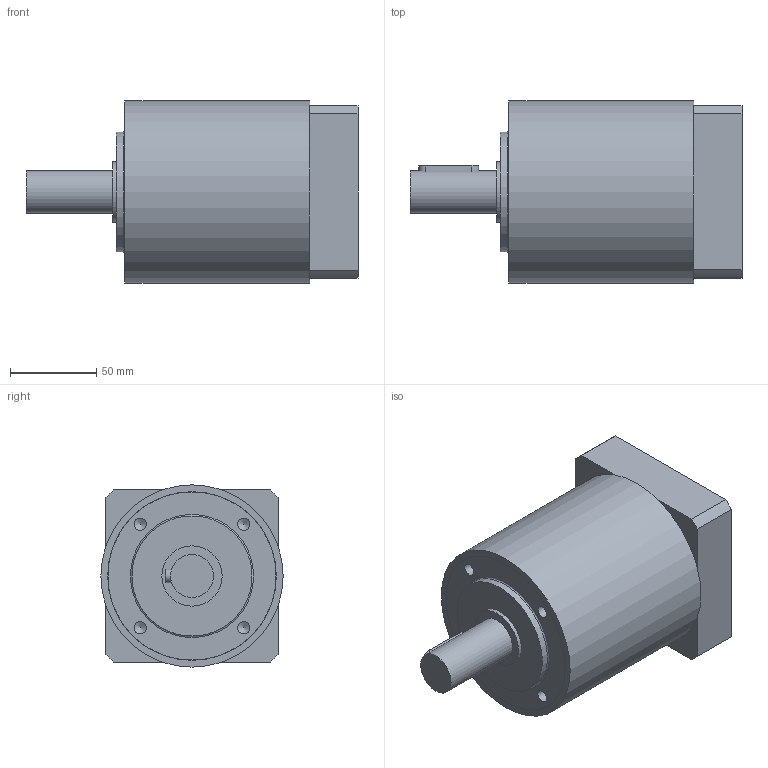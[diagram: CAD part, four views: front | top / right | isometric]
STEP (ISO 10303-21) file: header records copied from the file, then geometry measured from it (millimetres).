
FILE_DESCRIPTION(/* description */ (''),/* implementation_level */ '2;1');
FILE_NAME(/* name */ 'E0001806MP050107104252',/* time_stamp */ '2007-01-05T10:45:29+01:00',/* author */ (''),/* organization */ (''),/* preprocessor_version */ 'ST-DEVELOPER v9',/* originating_system */ 'EDS PLM SOLUTIONS - UNIGRAPHICS NX 2.0',/* authorisation */ '');
FILE_SCHEMA (('CONFIG_CONTROL_DESIGN'));
Length unit declared in the file: millimetre
Products named in the file (1): E0001806MP050107104252_u3d
Bounding box: 193 x 106 x 106 mm (x, y, z)
Volume: 1538539.4 mm3; surface area: 174972.9 mm2
Topology: 8 solids, 8 shells, 100 faces, 211 edges, 138 vertices
Faces by surface type: plane 45, cylinder 40, cone 12, torus 3
Full cylindrical faces by diameter (mm): 5.188 x2, 6.2 x1, 6.5 x1, 6.985 x4, 7.188 x4, 10.5 x1, 17.75 x1, 19 x1, 23 x1, 25 x2, 35 x1, 52 x1, 70 x1, 80.6 x1, 89.95 x1, 90 x1, 95 x1, 95.4 x1, 97.85 x1, 98 x2, 106 x1
Entity records: 2481 total; most frequent: CARTESIAN_POINT 436, DIRECTION 433, ORIENTED_EDGE 298, AXIS2_PLACEMENT_3D 186, EDGE_LOOP 162, EDGE_CURVE 149, VERTEX_POINT 125, FACE_BOUND 103
